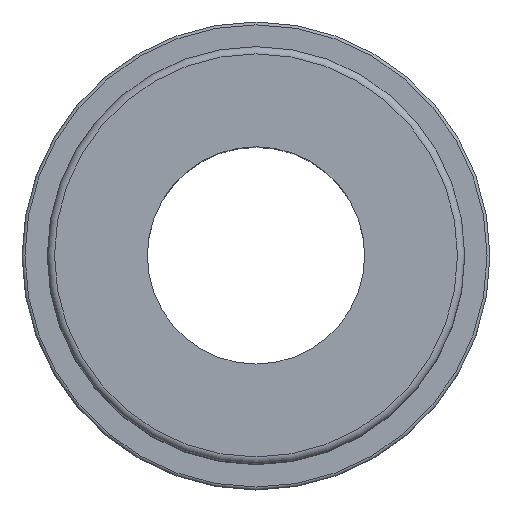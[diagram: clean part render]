
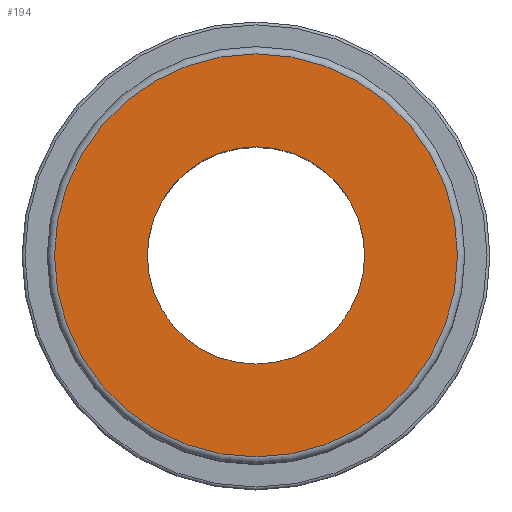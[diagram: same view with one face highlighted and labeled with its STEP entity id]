
A CAD part, top view. The second image highlights one B-rep face of the part: STEP entity #194.
In plain terms, the highlighted planar face has unit normal (0, 0, 1).
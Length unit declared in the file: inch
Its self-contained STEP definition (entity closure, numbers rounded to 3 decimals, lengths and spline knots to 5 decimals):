
#51 = EDGE_LOOP ( 'NONE', ( #579 ) ) ;
#67 = FACE_OUTER_BOUND ( 'NONE', #282, .T. ) ;
#71 = ORIENTED_EDGE ( 'NONE', *, *, #206, .T. ) ;
#108 = FACE_BOUND ( 'NONE', #51, .T. ) ;
#153 = VERTEX_POINT ( 'NONE', #210 ) ;
#194 = ADVANCED_FACE ( 'NONE', ( #67, #108 ), #443, .T. ) ;
#206 = EDGE_CURVE ( 'NONE', #153, #153, #274, .T. ) ;
#210 = CARTESIAN_POINT ( 'NONE',  ( 0.6955, 0., 0. ) ) ;
#214 = CARTESIAN_POINT ( 'NONE',  ( 0., 0., 0. ) ) ;
#274 = CIRCLE ( 'NONE', #293, 0.6955 ) ;
#282 = EDGE_LOOP ( 'NONE', ( #71 ) ) ;
#293 = AXIS2_PLACEMENT_3D ( 'NONE', #214, #432, #491 ) ;
#298 = AXIS2_PLACEMENT_3D ( 'NONE', #318, #598, #553 ) ;
#307 = CARTESIAN_POINT ( 'NONE',  ( 0., 0., 0. ) ) ;
#310 = CARTESIAN_POINT ( 'NONE',  ( 0.375, 0., 0. ) ) ;
#311 = DIRECTION ( 'NONE',  ( 0., 0., 1. ) ) ;
#318 = CARTESIAN_POINT ( 'NONE',  ( 0., 0., 0. ) ) ;
#336 = EDGE_CURVE ( 'NONE', #534, #534, #557, .T. ) ;
#413 = AXIS2_PLACEMENT_3D ( 'NONE', #307, #311, #447 ) ;
#432 = DIRECTION ( 'NONE',  ( 0., 0., 1. ) ) ;
#443 = PLANE ( 'NONE',  #413 ) ;
#447 = DIRECTION ( 'NONE',  ( 1., 0., 0. ) ) ;
#491 = DIRECTION ( 'NONE',  ( 1., 0., 0. ) ) ;
#534 = VERTEX_POINT ( 'NONE', #310 ) ;
#553 = DIRECTION ( 'NONE',  ( 1., 0., 0. ) ) ;
#557 = CIRCLE ( 'NONE', #298, 0.375 ) ;
#579 = ORIENTED_EDGE ( 'NONE', *, *, #336, .F. ) ;
#598 = DIRECTION ( 'NONE',  ( 0., 0., 1. ) ) ;
